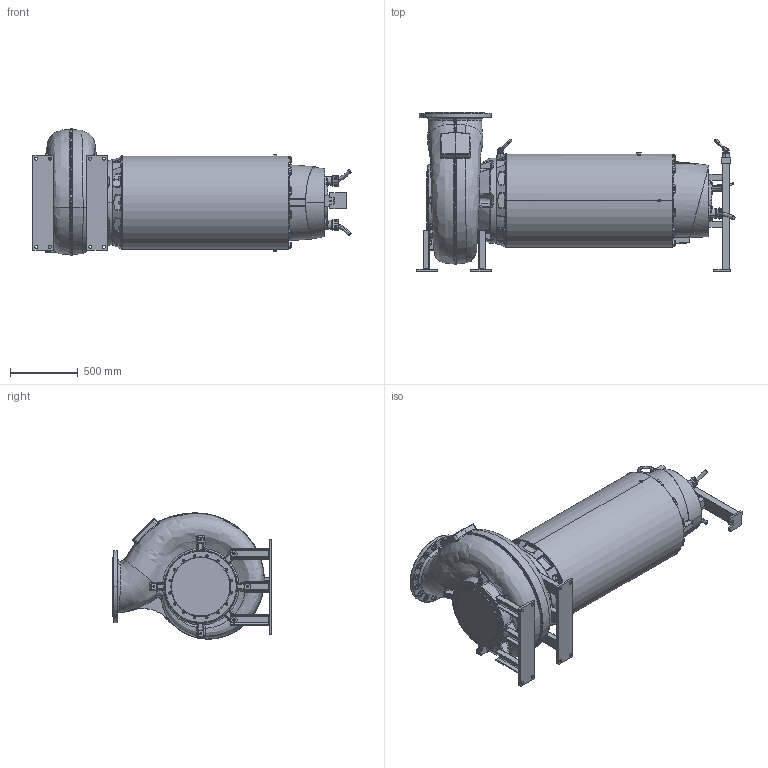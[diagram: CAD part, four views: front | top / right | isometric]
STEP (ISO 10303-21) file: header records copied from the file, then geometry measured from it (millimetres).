
FILE_DESCRIPTION (( 'STEP AP214' ), '1' );
FILE_NAME ('PE6_XFP351M-CH3_DRY HA_C_NG2.STEP', '2017-03-22T07:21:33', ( '' ), ( '' ), 'SwSTEP 2.0', 'SolidWorks 2017', '' );
FILE_SCHEMA (( 'AUTOMOTIVE_DESIGN' ));
Length unit declared in the file: millimetre
Products named in the file (1): PE6_XFP351M-CH3_DRY HA_C_NG2
Bounding box: 2343.08 x 1170.95 x 929.95 mm (x, y, z)
Volume: 829871435.9 mm3; surface area: 8315152.4 mm2
Topology: 6 solids, 18 shells, 3388 faces, 8459 edges, 4993 vertices
Faces by surface type: plane 928, bspline 820, cylinder 784, torus 378, cone 350, sphere 128
Entity records: 218751 total; most frequent: CARTESIAN_POINT 108065, ORIENTED_EDGE 16526, DIRECTION 13811, EDGE_CURVE 8263, AXIS2_PLACEMENT_3D 5488, VERTEX_POINT 4989, EDGE_LOOP 3594, UNCERTAINTY_MEASURE_WITH_UNIT 3396
